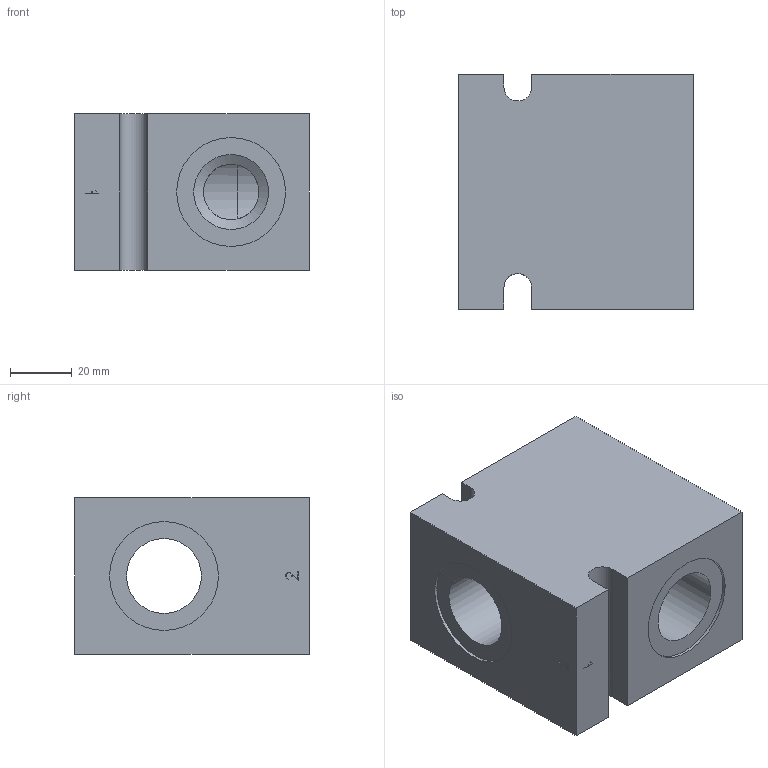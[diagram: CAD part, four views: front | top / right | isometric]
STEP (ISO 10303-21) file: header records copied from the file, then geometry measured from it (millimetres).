
FILE_DESCRIPTION( ( 'Unknown' ), '1' );
FILE_NAME( 'G:/Graphic Design/Graphic Design 2/Data Sheets/Delta Bodies/DRAWINGS/B-DSJD2.stp', 'Unknown', ( 'Unknown' ), ( 'Unknown' ), 'PSStep 16.0.42', 'Unknown', ' ' );
FILE_SCHEMA( ( 'AUTOMOTIVE_DESIGN { 1 0 10303 214 1 1 1 1 }' ) );
Length unit declared in the file: millimetre
Products named in the file (2): Assem1; B-DSJD2
Assembly tree (1 placements, depth 2):
  Assem1
    B-DSJD2
Bounding box: 76.2 x 76.2 x 50.8 mm (x, y, z)
Surface area: 35966.1 mm2 (no closed solid volume)
Topology: 0 solids, 80 shells, 80 faces, 388 edges, 367 vertices
Faces by surface type: plane 57, cylinder 16, cone 6, torus 1
Full cylindrical faces by diameter (mm): 0.2 x2, 18 x1, 24.3 x4, 25.4 x1, 28.651 x1, 31.806 x2, 35.33 x2, 48.514 x1
Entity records: 4318 total; most frequent: CARTESIAN_POINT 1126, DIRECTION 430, ORIENTED_EDGE 354, EDGE_CURVE 354, VERTEX_POINT 354, B_SPLINE_CURVE_WITH_KNOTS 152, AXIS2_PLACEMENT_3D 146, LINE 138
